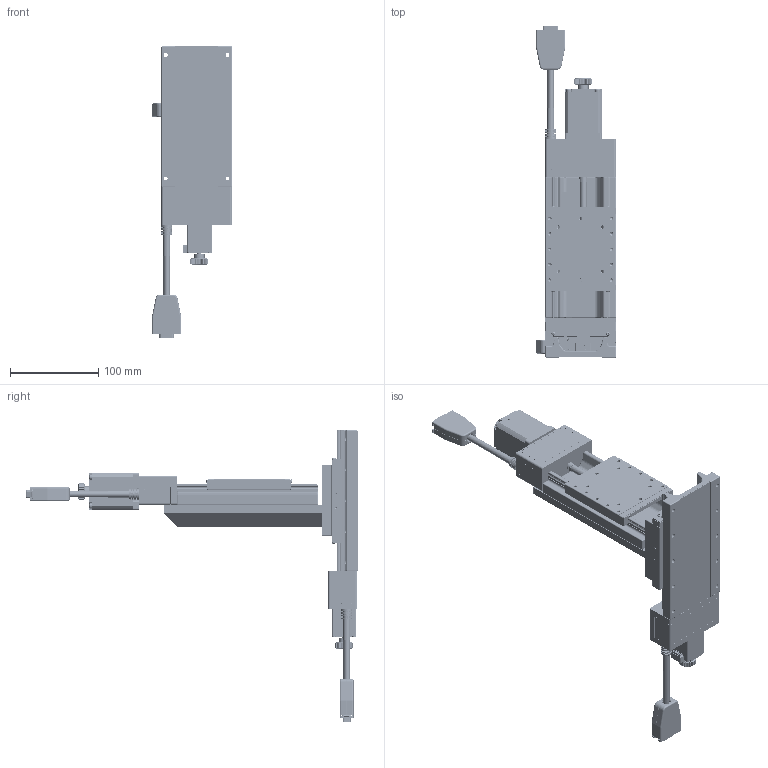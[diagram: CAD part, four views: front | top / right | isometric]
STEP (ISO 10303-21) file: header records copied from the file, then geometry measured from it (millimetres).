
FILE_DESCRIPTION (( 'STEP AP203' ), '1' );
FILE_NAME ('CXZN8050-S2?N.STEP', '2023-10-03T00:06:05', ( '' ), ( '' ), 'SwSTEP 2.0', 'SolidWorks 2019', '' );
FILE_SCHEMA (( 'CONFIG_CONTROL_DESIGN' ));
Products named in the file (8): Group1^CZLN8050-S2?N(2023新版)_defeature_GMT; Group4^CXN8050-S2?N(2023新版)_defeature-2_GMT; CXZN8050-S2?N; Group2^CZLN8050-S2?N(2023新版)_defeature_GMT; CXN8050-S2?N(2023新版)_defeature-2; CXN80_GMT; CXN80-104-00; Group3^CXN8050-S2?N(2023新版)_defeature-2_GMT
Assembly tree (7 placements, depth 3):
  CXZN8050-S2?N
    Group1^CZLN8050-S2?N(2023新版)_defeature_GMT
    Group2^CZLN8050-S2?N(2023新版)_defeature_GMT
    CXN80-104-00
    CXN8050-S2?N(2023新版)_defeature-2
      Group3^CXN8050-S2?N(2023新版)_defeature-2_GMT
      Group4^CXN8050-S2?N(2023新版)_defeature-2_GMT
      CXN80_GMT
Bounding box: 90.5 x 375.6 x 330.6 mm (x, y, z)
Volume: 119921 mm3; surface area: 299710.5 mm2
Topology: 41 solids, 47 shells, 8265 faces, 21372 edges, 13188 vertices
Faces by surface type: plane 3096, cylinder 2485, cone 1066, torus 828, bspline 524, sphere 266
Entity records: 276230 total; most frequent: CARTESIAN_POINT 76449, ORIENTED_EDGE 42136, DIRECTION 42052, EDGE_CURVE 21068, AXIS2_PLACEMENT_3D 16075, VERTEX_POINT 13172, VECTOR 9902, LINE 9902
